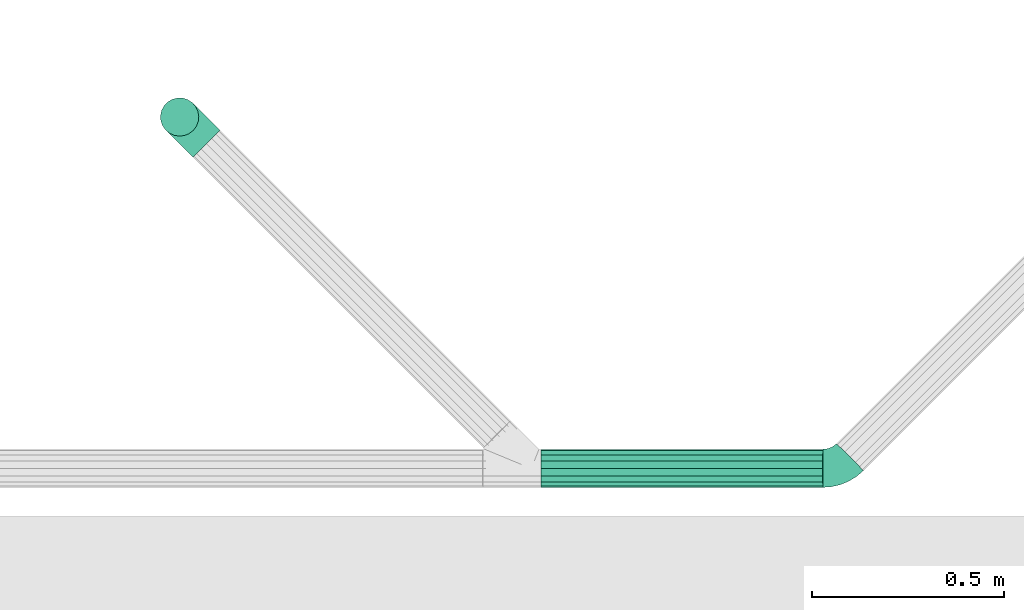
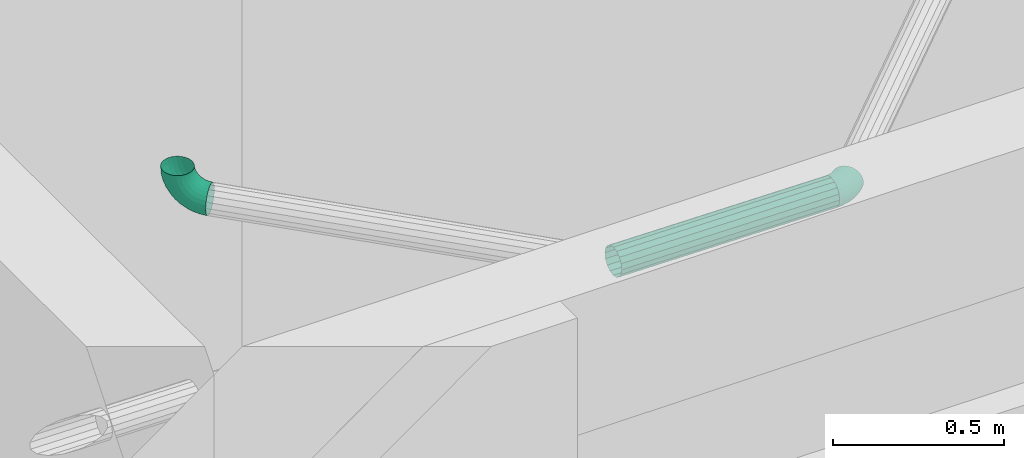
# One storey, part 15 of 23: 2 flow fittings, 1 flow segment.
"""IFC2X3 building model written with IfcOpenShell, lengths in metres."""

from ifc_helpers import new_model, entity, si_unit, converted_unit, derived_unit, money_unit, direction, frame, origin_with_axes, place, context, subcontext, project, spatial, open_shell, faceted_brep, surface_model, material, type_object, element, save


model = new_model("IFC2X3")

# Units and contexts
model_context = context("Model", 3, precision=1e-05, world=origin_with_axes(), true_north=direction((0.0, 1.0)))
body_context = subcontext(model_context, "Body", "Model", "MODEL_VIEW", scale=1.0)
ifc_project = project(units=[si_unit("LENGTHUNIT", "METRE"), si_unit("AREAUNIT", "SQUARE_METRE"), si_unit("VOLUMEUNIT", "CUBIC_METRE"), si_unit("ABSORBEDDOSEUNIT", "GRAY"), si_unit("AMOUNTOFSUBSTANCEUNIT", "MOLE"), si_unit("DOSEEQUIVALENTUNIT", "SIEVERT"), si_unit("ELECTRICCAPACITANCEUNIT", "FARAD"), si_unit("ELECTRICCHARGEUNIT", "COULOMB"), si_unit("ELECTRICCONDUCTANCEUNIT", "SIEMENS"), si_unit("ELECTRICCURRENTUNIT", "AMPERE"), si_unit("ELECTRICRESISTANCEUNIT", "OHM"), si_unit("ELECTRICVOLTAGEUNIT", "VOLT"), si_unit("ENERGYUNIT", "JOULE"), si_unit("FORCEUNIT", "NEWTON"), si_unit("FREQUENCYUNIT", "HERTZ"), si_unit("ILLUMINANCEUNIT", "LUX"), si_unit("INDUCTANCEUNIT", "HENRY"), si_unit("LUMINOUSFLUXUNIT", "LUMEN"), si_unit("LUMINOUSINTENSITYUNIT", "CANDELA"), si_unit("MAGNETICFLUXDENSITYUNIT", "TESLA"), si_unit("MAGNETICFLUXUNIT", "WEBER"), si_unit("MASSUNIT", "GRAM"), converted_unit("PLANEANGLEUNIT", "degree", entity("IfcReal", 0.0174532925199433), si_unit("PLANEANGLEUNIT", "RADIAN"), dimensions=[0, 0, 0, 0, 0, 0, 0]), si_unit("POWERUNIT", "WATT"), si_unit("PRESSUREUNIT", "PASCAL"), si_unit("RADIOACTIVITYUNIT", "BECQUEREL"), si_unit("SOLIDANGLEUNIT", "STERADIAN"), si_unit("THERMODYNAMICTEMPERATUREUNIT", "KELVIN"), si_unit("TIMEUNIT", "SECOND"), derived_unit("ACCELERATIONUNIT", [(si_unit("LENGTHUNIT", "METRE"), 1), (si_unit("TIMEUNIT", "SECOND"), -2)]), derived_unit("ANGULARVELOCITYUNIT", [(converted_unit("PLANEANGLEUNIT", "degree", entity("IfcReal", 0.0174532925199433), si_unit("PLANEANGLEUNIT", "RADIAN"), dimensions=[0, 0, 0, 0, 0, 0, 0]), 1), (si_unit("TIMEUNIT", "SECOND"), -1)]), derived_unit("CURVATUREUNIT", [(converted_unit("PLANEANGLEUNIT", "degree", entity("IfcReal", 0.0174532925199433), si_unit("PLANEANGLEUNIT", "RADIAN"), dimensions=[0, 0, 0, 0, 0, 0, 0]), 1), (si_unit("LENGTHUNIT", "METRE"), -1)]), derived_unit("DYNAMICVISCOSITYUNIT", [(si_unit("PRESSUREUNIT", "PASCAL"), 1), (si_unit("TIMEUNIT", "SECOND"), 1)]), derived_unit("HEATFLUXDENSITYUNIT", [(si_unit("POWERUNIT", "WATT"), 1), (si_unit("LENGTHUNIT", "METRE"), -2)]), derived_unit("HEATINGVALUEUNIT", [(si_unit("ENERGYUNIT", "JOULE"), 1), (si_unit("MASSUNIT", "GRAM"), -1)]), derived_unit("INTEGERCOUNTRATEUNIT", [(si_unit("TIMEUNIT", "SECOND"), -1)]), derived_unit("IONCONCENTRATIONUNIT", [(si_unit("MASSUNIT", "GRAM"), 1), (si_unit("VOLUMEUNIT", "CUBIC_METRE"), -1)]), derived_unit("ISOTHERMALMOISTURECAPACITYUNIT", [(si_unit("VOLUMEUNIT", "CUBIC_METRE"), 1), (si_unit("MASSUNIT", "GRAM"), -1)]), derived_unit("KINEMATICVISCOSITYUNIT", [(si_unit("AREAUNIT", "SQUARE_METRE"), 1), (si_unit("TIMEUNIT", "SECOND"), -1)]), derived_unit("LINEARFORCEUNIT", [(si_unit("FORCEUNIT", "NEWTON"), 1), (si_unit("LENGTHUNIT", "METRE"), -1)]), derived_unit("LINEARMOMENTUNIT", [(si_unit("FORCEUNIT", "NEWTON"), 1), (si_unit("LENGTHUNIT", "METRE"), -1)]), derived_unit("LINEARSTIFFNESSUNIT", [(si_unit("FORCEUNIT", "NEWTON"), 1), (si_unit("LENGTHUNIT", "METRE"), -1)]), derived_unit("LINEARVELOCITYUNIT", [(si_unit("LENGTHUNIT", "METRE"), 1), (si_unit("TIMEUNIT", "SECOND"), -1)]), derived_unit("LUMINOUSINTENSITYDISTRIBUTIONUNIT", [(si_unit("LUMINOUSINTENSITYUNIT", "CANDELA"), 1), (si_unit("LUMINOUSFLUXUNIT", "LUMEN"), -1)]), derived_unit("MASSDENSITYUNIT", [(si_unit("MASSUNIT", "GRAM"), 1), (si_unit("VOLUMEUNIT", "CUBIC_METRE"), -1)]), derived_unit("MASSFLOWRATEUNIT", [(si_unit("MASSUNIT", "GRAM"), 1), (si_unit("TIMEUNIT", "SECOND"), -1)]), derived_unit("MASSPERLENGTHUNIT", [(si_unit("MASSUNIT", "GRAM"), 1), (si_unit("LENGTHUNIT", "METRE"), -1)]), derived_unit("MODULUSOFELASTICITYUNIT", [(si_unit("FORCEUNIT", "NEWTON"), 1), (si_unit("AREAUNIT", "SQUARE_METRE"), -1)]), derived_unit("MODULUSOFLINEARSUBGRADEREACTIONUNIT", [(si_unit("FORCEUNIT", "NEWTON"), 1), (si_unit("LENGTHUNIT", "METRE"), -2)]), derived_unit("MODULUSOFROTATIONALSUBGRADEREACTIONUNIT", [(si_unit("FORCEUNIT", "NEWTON"), 1), (si_unit("LENGTHUNIT", "METRE"), 1)]), derived_unit("MODULUSOFSUBGRADEREACTIONUNIT", [(si_unit("FORCEUNIT", "NEWTON"), 1), (si_unit("VOLUMEUNIT", "CUBIC_METRE"), -1)]), derived_unit("MOISTUREDIFFUSIVITYUNIT", [(si_unit("VOLUMEUNIT", "CUBIC_METRE"), 1), (si_unit("TIMEUNIT", "SECOND"), -1)]), derived_unit("MOLECULARWEIGHTUNIT", [(si_unit("MASSUNIT", "GRAM"), 1), (si_unit("AMOUNTOFSUBSTANCEUNIT", "MOLE"), -1)]), derived_unit("PLANARFORCEUNIT", [(si_unit("FORCEUNIT", "NEWTON"), 1), (si_unit("LENGTHUNIT", "METRE"), -2)]), derived_unit("ROTATIONALFREQUENCYUNIT", [(si_unit("TIMEUNIT", "SECOND"), -1)]), derived_unit("ROTATIONALMASSUNIT", [(si_unit("MASSUNIT", "GRAM"), 1), (si_unit("LENGTHUNIT", "METRE"), 2)]), derived_unit("ROTATIONALSTIFFNESSUNIT", [(si_unit("FORCEUNIT", "NEWTON"), 1), (si_unit("LENGTHUNIT", "METRE"), 1), (converted_unit("PLANEANGLEUNIT", "degree", entity("IfcReal", 0.0174532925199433), si_unit("PLANEANGLEUNIT", "RADIAN"), dimensions=[0, 0, 0, 0, 0, 0, 0]), -1)]), derived_unit("SECTIONAREAINTEGRALUNIT", [(si_unit("LENGTHUNIT", "METRE"), 5)]), derived_unit("SECTIONMODULUSUNIT", [(si_unit("LENGTHUNIT", "METRE"), 3)]), derived_unit("SHEARMODULUSUNIT", [(si_unit("FORCEUNIT", "NEWTON"), 1), (si_unit("AREAUNIT", "SQUARE_METRE"), -1)]), derived_unit("SOUNDPOWERUNIT", [(si_unit("ENERGYUNIT", "JOULE"), 1), (si_unit("TIMEUNIT", "SECOND"), -1)]), derived_unit("SPECIFICHEATCAPACITYUNIT", [(si_unit("FORCEUNIT", "NEWTON"), 1), (si_unit("MASSUNIT", "GRAM"), -1), (si_unit("THERMODYNAMICTEMPERATUREUNIT", "KELVIN"), -1)]), derived_unit("TEMPERATUREGRADIENTUNIT", [(si_unit("THERMODYNAMICTEMPERATUREUNIT", "KELVIN"), 1), (si_unit("LENGTHUNIT", "METRE"), -1)]), derived_unit("THERMALADMITTANCEUNIT", [(si_unit("POWERUNIT", "WATT"), 1), (si_unit("AREAUNIT", "SQUARE_METRE"), -1), (si_unit("THERMODYNAMICTEMPERATUREUNIT", "KELVIN"), -1)]), derived_unit("THERMALCONDUCTANCEUNIT", [(si_unit("POWERUNIT", "WATT"), 1), (si_unit("LENGTHUNIT", "METRE"), -1), (si_unit("THERMODYNAMICTEMPERATUREUNIT", "KELVIN"), -1)]), derived_unit("THERMALEXPANSIONCOEFFICIENTUNIT", [(si_unit("THERMODYNAMICTEMPERATUREUNIT", "KELVIN"), -1)]), derived_unit("THERMALRESISTANCEUNIT", [(si_unit("AREAUNIT", "SQUARE_METRE"), 1), (si_unit("POWERUNIT", "WATT"), -1)]), derived_unit("THERMALTRANSMITTANCEUNIT", [(si_unit("POWERUNIT", "WATT"), 1), (si_unit("AREAUNIT", "SQUARE_METRE"), -1), (si_unit("THERMODYNAMICTEMPERATUREUNIT", "KELVIN"), -1)]), derived_unit("TORQUEUNIT", [(si_unit("FORCEUNIT", "NEWTON"), 1), (si_unit("LENGTHUNIT", "METRE"), 1)]), derived_unit("VAPORPERMEABILITYUNIT", [(si_unit("MASSUNIT", "GRAM"), 1), (si_unit("TIMEUNIT", "SECOND"), -1)]), derived_unit("VOLUMETRICFLOWRATEUNIT", [(si_unit("VOLUMEUNIT", "CUBIC_METRE"), 1), (si_unit("TIMEUNIT", "SECOND"), -1)]), derived_unit("WARPINGCONSTANTUNIT", [(si_unit("LENGTHUNIT", "METRE"), 6)]), derived_unit("WARPINGMOMENTUNIT", [(si_unit("FORCEUNIT", "NEWTON"), 1), (si_unit("LENGTHUNIT", "METRE"), 2)]), money_unit("GBP")], contexts=[model_context])

# Site, building, storey, space
site_placement = place(None, origin_with_axes())
site = spatial("IfcSite", under=ifc_project, at=site_placement, Name="Site", CompositionType="ELEMENT")
building_placement = place(site_placement, origin_with_axes())
building = spatial("IfcBuilding", under=site, at=building_placement, Name="Building01", CompositionType="ELEMENT")
storey_placement = place(building_placement, frame((0.0, 0.0, 2.6), z_axis=(0.0, 0.0, 1.0), x_axis=(1.0, 0.0, 0.0)))
storey = spatial("IfcBuildingStorey", under=building, at=storey_placement, Name="MF", CompositionType="ELEMENT", Elevation=2.6)
space_placement = place(storey_placement, frame((14.421434, 6.076984, 0.0), z_axis=(0.0, 0.0, 1.0), x_axis=(0.0, -1.0, 0.0)))
space = spatial("IfcSpace", under=storey, at=space_placement, Name="storage", CompositionType="ELEMENT", InteriorOrExteriorSpace="NOTDEFINED")

# Flow segment
ifc_material = material(Name="M_BSUK_ColdWater")
pipe_segment_type = type_object("IfcPipeSegmentType", Name="M-BmpStraightpipe-DefaultPipe", PredefinedType="RIGIDSEGMENT")
placement = place(building_placement, origin_with_axes())
flow_segment_placement = place(placement, frame((15.842963, 3.948962, 4.664524), z_axis=(0.01249902, 0.0, 0.99992188), x_axis=(0.99992188, 0.0, -0.01249902)))
element("IfcFlowSegment", 1, at=flow_segment_placement, inside=space, type_object=pipe_segment_type, material=ifc_material, Name="M-BmpStraightpipe-DefaultPipe", ObjectType="M-BmpStraightpipe-DefaultPipe", context=body_context, shape_type="Brep", body=[
    faceted_brep([(0.736484, 0.0, -0.05), (0.0, 0.0, -0.05), (0.0, 0.019134, -0.046194), (0.736484, 0.019134, -0.046194), (0.0, 0.035355, -0.035355), (0.736484, 0.035355, -0.035355), (0.0, 0.046194, -0.019134), (0.736484, 0.046194, -0.019134), (0.0, 0.05, 0.0), (0.736484, 0.05, 0.0), (0.0, 0.046194, 0.019134), (0.736484, 0.046194, 0.019134), (0.0, 0.035355, 0.035355), (0.736484, 0.035355, 0.035355), (0.0, 0.019134, 0.046194), (0.736484, 0.019134, 0.046194), (0.0, 0.0, 0.05), (0.736484, 0.0, 0.05), (0.0, -0.019134, 0.046194), (0.736484, -0.019134, 0.046194), (0.0, -0.035355, 0.035355), (0.736484, -0.035355, 0.035355), (0.0, -0.046194, 0.019134), (0.736484, -0.046194, 0.019134), (0.0, -0.05, 0.0), (0.736484, -0.05, 0.0), (0.0, -0.046194, -0.019134), (0.736484, -0.046194, -0.019134), (0.0, -0.035355, -0.035355), (0.736484, -0.035355, -0.035355), (0.0, -0.019134, -0.046194), (0.736484, -0.019134, -0.046194)], [[[0, 1, 2, 3]], [[3, 2, 4, 5]], [[5, 4, 6, 7]], [[7, 6, 8, 9]], [[9, 8, 10, 11]], [[11, 10, 12, 13]], [[13, 12, 14, 15]], [[15, 14, 16, 17]], [[17, 16, 18, 19]], [[19, 18, 20, 21]], [[21, 20, 22, 23]], [[23, 22, 24, 25]], [[25, 24, 26, 27]], [[27, 26, 28, 29]], [[29, 28, 30, 31]], [[31, 30, 1, 0]]]),
])

# Flow fittings
pipe_fitting_type = type_object("IfcPipeFittingType", Name="M-BmpElbow-DefaultElbow", PredefinedType="BEND")
flow_fitting_1_placement = place(placement, frame((16.579389, 3.948962, 4.655319), z_axis=(6.471e-05, -0.9999866, 0.00517679), x_axis=(0.99992188, 0.0, -0.01249902)))
element("IfcFlowFitting", 2, at=flow_fitting_1_placement, inside=space, type_object=pipe_fitting_type, material=ifc_material, Name="M-BmpElbow-DefaultElbow", ObjectType="M-BmpElbow-DefaultElbow", context=body_context, shape_type="SurfaceModel", body=[
    surface_model("IfcShellBasedSurfaceModel", [(0.008111, -0.01349, -0.048784), (0.0, -0.01349, -0.048146), (0.0, 0.0, -0.05), (0.007821, 0.0, -0.050615), (0.016023, -0.01349, -0.050683), (0.01545, 0.0, -0.052447), (0.023539, -0.01349, -0.053797), (0.022698, 0.0, -0.055449), (0.030477, -0.01349, -0.058048), (0.029387, 0.0, -0.059548), (0.036664, -0.01349, -0.063331), (0.035353, 0.0, -0.064642), (0.00896, -0.025979, -0.043426), (0.0, -0.025979, -0.042721), (0.017699, -0.025979, -0.045524), (0.026002, -0.025979, -0.048963), (0.033665, -0.025979, -0.053659), (0.0405, -0.025979, -0.059495), (0.010304, -0.036542, -0.034939), (0.0, -0.036542, -0.034128), (0.020354, -0.036542, -0.037351), (0.029903, -0.036542, -0.041306), (0.038716, -0.036542, -0.046706), (0.046576, -0.036542, -0.053418), (0.012044, -0.044394, -0.023951), (0.0, -0.044394, -0.023003), (0.023791, -0.044394, -0.026771), (0.034953, -0.044394, -0.031394), (0.045254, -0.044394, -0.037706), (0.054441, -0.044394, -0.045552), (0.014051, -0.048954, -0.011279), (0.0, -0.048954, -0.010173), (0.027756, -0.048954, -0.014569), (0.040778, -0.048954, -0.019962), (0.052795, -0.048954, -0.027326), (0.063513, -0.048954, -0.036478), (0.016176, -0.049883, 0.002139), (0.0, -0.049883, 0.003412), (0.031954, -0.049883, -0.001648), (0.046945, -0.049883, -0.007857), (0.06078, -0.049883, -0.016335), (0.073119, -0.049883, -0.026872), (0.018261, -0.047113, 0.015307), (0.0, -0.047113, 0.016744), (0.036073, -0.047113, 0.011031), (0.052997, -0.047113, 0.004022), (0.068616, -0.047113, -0.005549), (0.082545, -0.047113, -0.017444), (0.020152, -0.040848, 0.027248), (0.0, -0.040848, 0.028834), (0.039809, -0.040848, 0.022529), (0.058485, -0.040848, 0.014794), (0.075721, -0.040848, 0.004233), (0.091094, -0.040848, -0.008895), (0.021709, -0.031554, 0.037077), (0.0, -0.031554, 0.038786), (0.042884, -0.031554, 0.031994), (0.063003, -0.031554, 0.023661), (0.08157, -0.031554, 0.012284), (0.09813, -0.031554, -0.001857), (0.022816, -0.01992, 0.044065), (0.0, -0.01992, 0.045861), (0.04507, -0.01992, 0.038723), (0.066214, -0.01992, 0.029965), (0.085729, -0.01992, 0.018008), (0.103132, -0.01992, 0.003146), (0.02339, -0.006808, 0.047694), (0.0, -0.006808, 0.049534), (0.046205, -0.006808, 0.042217), (0.067882, -0.006808, 0.033239), (0.087888, -0.006808, 0.02098), (0.10573, -0.006808, 0.005744), (0.02339, 0.006808, 0.047694), (0.0, 0.006808, 0.049534), (0.046205, 0.006808, 0.042217), (0.067882, 0.006808, 0.033239), (0.087888, 0.006808, 0.02098), (0.10573, 0.006808, 0.005744), (0.022816, 0.01992, 0.044065), (0.0, 0.01992, 0.045861), (0.04507, 0.01992, 0.038723), (0.066214, 0.01992, 0.029965), (0.085729, 0.01992, 0.018008), (0.103132, 0.01992, 0.003146), (0.021709, 0.031554, 0.037077), (0.0, 0.031554, 0.038786), (0.042884, 0.031554, 0.031994), (0.063003, 0.031554, 0.023661), (0.08157, 0.031554, 0.012284), (0.09813, 0.031554, -0.001857), (0.020152, 0.040848, 0.027248), (0.0, 0.040848, 0.028834), (0.039809, 0.040848, 0.022529), (0.058485, 0.040848, 0.014794), (0.075721, 0.040848, 0.004233), (0.091094, 0.040848, -0.008895), (0.018261, 0.047113, 0.015307), (0.0, 0.047113, 0.016744), (0.036073, 0.047113, 0.011031), (0.052997, 0.047113, 0.004022), (0.068616, 0.047113, -0.005549), (0.082545, 0.047113, -0.017444), (0.016176, 0.049883, 0.002139), (0.0, 0.049883, 0.003412), (0.031954, 0.049883, -0.001648), (0.046945, 0.049883, -0.007857), (0.06078, 0.049883, -0.016335), (0.073119, 0.049883, -0.026872), (0.014051, 0.048954, -0.011279), (0.0, 0.048954, -0.010173), (0.027756, 0.048954, -0.014569), (0.040778, 0.048954, -0.019962), (0.052795, 0.048954, -0.027326), (0.063513, 0.048954, -0.036478), (0.012044, 0.044394, -0.023951), (0.0, 0.044394, -0.023003), (0.023791, 0.044394, -0.026771), (0.034953, 0.044394, -0.031394), (0.045254, 0.044394, -0.037706), (0.054441, 0.044394, -0.045552), (0.010304, 0.036542, -0.034939), (0.0, 0.036542, -0.034128), (0.020354, 0.036542, -0.037351), (0.029903, 0.036542, -0.041306), (0.038716, 0.036542, -0.046706), (0.046576, 0.036542, -0.053418), (0.00896, 0.025979, -0.043426), (0.0, 0.025979, -0.042721), (0.017699, 0.025979, -0.045524), (0.026002, 0.025979, -0.048963), (0.033665, 0.025979, -0.053659), (0.0405, 0.025979, -0.059495), (0.008111, 0.01349, -0.048784), (0.0, 0.01349, -0.048146), (0.016023, 0.01349, -0.050683), (0.023539, 0.01349, -0.053797), (0.030477, 0.01349, -0.058048), (0.036664, 0.01349, -0.063331)], [open_shell([[[0, 1, 2, 3]], [[4, 0, 3, 5]], [[6, 4, 5, 7]], [[8, 6, 7, 9]], [[10, 8, 9, 11]], [[12, 13, 1, 0]], [[14, 12, 0, 4]], [[15, 14, 4, 6]], [[16, 15, 6, 8]], [[17, 16, 8, 10]], [[18, 19, 13, 12]], [[20, 18, 12, 14]], [[21, 20, 14, 15]], [[22, 21, 15, 16]], [[23, 22, 16, 17]], [[24, 25, 19, 18]], [[26, 24, 18, 20]], [[27, 26, 20, 21]], [[28, 27, 21, 22]], [[29, 28, 22, 23]], [[30, 31, 25, 24]], [[32, 30, 24, 26]], [[33, 32, 26, 27]], [[34, 33, 27, 28]], [[35, 34, 28, 29]], [[36, 37, 31, 30]], [[38, 36, 30, 32]], [[39, 38, 32, 33]], [[40, 39, 33, 34]], [[41, 40, 34, 35]], [[42, 43, 37, 36]], [[44, 42, 36, 38]], [[45, 44, 38, 39]], [[46, 45, 39, 40]], [[47, 46, 40, 41]], [[48, 49, 43, 42]], [[50, 48, 42, 44]], [[51, 50, 44, 45]], [[52, 51, 45, 46]], [[53, 52, 46, 47]], [[54, 55, 49, 48]], [[56, 54, 48, 50]], [[57, 56, 50, 51]], [[58, 57, 51, 52]], [[59, 58, 52, 53]], [[60, 61, 55, 54]], [[62, 60, 54, 56]], [[63, 62, 56, 57]], [[64, 63, 57, 58]], [[65, 64, 58, 59]], [[66, 67, 61, 60]], [[68, 66, 60, 62]], [[69, 68, 62, 63]], [[70, 69, 63, 64]], [[71, 70, 64, 65]], [[72, 73, 67, 66]], [[74, 72, 66, 68]], [[75, 74, 68, 69]], [[76, 75, 69, 70]], [[77, 76, 70, 71]], [[78, 79, 73, 72]], [[80, 78, 72, 74]], [[81, 80, 74, 75]], [[82, 81, 75, 76]], [[83, 82, 76, 77]], [[84, 85, 79, 78]], [[86, 84, 78, 80]], [[87, 86, 80, 81]], [[88, 87, 81, 82]], [[89, 88, 82, 83]], [[90, 91, 85, 84]], [[92, 90, 84, 86]], [[93, 92, 86, 87]], [[94, 93, 87, 88]], [[95, 94, 88, 89]], [[96, 97, 91, 90]], [[98, 96, 90, 92]], [[99, 98, 92, 93]], [[100, 99, 93, 94]], [[101, 100, 94, 95]], [[102, 103, 97, 96]], [[104, 102, 96, 98]], [[105, 104, 98, 99]], [[106, 105, 99, 100]], [[107, 106, 100, 101]], [[108, 109, 103, 102]], [[110, 108, 102, 104]], [[111, 110, 104, 105]], [[112, 111, 105, 106]], [[113, 112, 106, 107]], [[114, 115, 109, 108]], [[116, 114, 108, 110]], [[117, 116, 110, 111]], [[118, 117, 111, 112]], [[119, 118, 112, 113]], [[120, 121, 115, 114]], [[122, 120, 114, 116]], [[123, 122, 116, 117]], [[124, 123, 117, 118]], [[125, 124, 118, 119]], [[126, 127, 121, 120]], [[128, 126, 120, 122]], [[129, 128, 122, 123]], [[130, 129, 123, 124]], [[131, 130, 124, 125]], [[132, 133, 127, 126]], [[134, 132, 126, 128]], [[135, 134, 128, 129]], [[136, 135, 129, 130]], [[137, 136, 130, 131]], [[3, 2, 133, 132]], [[5, 3, 132, 134]], [[7, 5, 134, 135]], [[9, 7, 135, 136]], [[11, 9, 136, 137]]])]),
])
flow_fitting_2_placement = place(placement, frame((14.9, 4.866475, 4.778874), z_axis=(-0.70710678, 0.70710678, 0.0), x_axis=(0.0, 0.0, -1.0)))
element("IfcFlowFitting", 3, at=flow_fitting_2_placement, inside=space, type_object=pipe_fitting_type, material=ifc_material, Name="M-BmpElbow-DefaultElbow", ObjectType="M-BmpElbow-DefaultElbow", context=body_context, shape_type="SurfaceModel", body=[
    surface_model("IfcShellBasedSurfaceModel", [(0.008048, -0.01349, -0.048774), (0.0, -0.01349, -0.048146), (0.0, 0.0, -0.05), (0.00776, 0.0, -0.050606), (0.0159, -0.01349, -0.050644), (0.015332, 0.0, -0.052409), (0.023368, -0.01349, -0.05371), (0.022532, 0.0, -0.055365), (0.030269, -0.01349, -0.057897), (0.029187, 0.0, -0.059403), (0.036437, -0.01349, -0.063105), (0.035134, 0.0, -0.064424), (0.041721, -0.01349, -0.069207), (0.040229, 0.0, -0.070308), (0.045995, -0.01349, -0.076055), (0.04435, 0.0, -0.076912), (0.049154, -0.01349, -0.083484), (0.047396, 0.0, -0.084074), (0.051121, -0.01349, -0.091313), (0.049293, 0.0, -0.091623), (0.05185, -0.01349, -0.099352), (0.049996, 0.0, -0.099375), (0.00889, -0.025979, -0.043415), (0.0, -0.025979, -0.042721), (0.017564, -0.025979, -0.04548), (0.025813, -0.025979, -0.048867), (0.033436, -0.025979, -0.053493), (0.040248, -0.025979, -0.059245), (0.046086, -0.025979, -0.065986), (0.050807, -0.025979, -0.07355), (0.054296, -0.025979, -0.081756), (0.056469, -0.025979, -0.090404), (0.057275, -0.025979, -0.099284), (0.010223, -0.036542, -0.034926), (0.0, -0.036542, -0.034128), (0.020199, -0.036542, -0.037301), (0.029685, -0.036542, -0.041196), (0.038452, -0.036542, -0.046515), (0.046287, -0.036542, -0.053131), (0.053, -0.036542, -0.060883), (0.058429, -0.036542, -0.069582), (0.062442, -0.036542, -0.079019), (0.064941, -0.036542, -0.088964), (0.065867, -0.036542, -0.099177), (0.01195, -0.044394, -0.023936), (0.0, -0.044394, -0.023003), (0.02361, -0.044394, -0.026712), (0.034698, -0.044394, -0.031265), (0.044946, -0.044394, -0.037483), (0.054104, -0.044394, -0.045216), (0.061951, -0.044394, -0.054277), (0.068296, -0.044394, -0.064445), (0.072987, -0.044394, -0.075476), (0.075908, -0.044394, -0.0871), (0.076991, -0.044394, -0.099038), (0.013941, -0.048954, -0.011261), (0.0, -0.048954, -0.010173), (0.027544, -0.048954, -0.0145), (0.04048, -0.048954, -0.019811), (0.052435, -0.048954, -0.027065), (0.063119, -0.048954, -0.036087), (0.072274, -0.048954, -0.046657), (0.079677, -0.048954, -0.058521), (0.085149, -0.048954, -0.071389), (0.088558, -0.048954, -0.084951), (0.08982, -0.048954, -0.098877), (0.01605, -0.049883, 0.002159), (0.0, -0.049883, 0.003412), (0.03171, -0.049883, -0.00157), (0.046602, -0.049883, -0.007684), (0.060365, -0.049883, -0.016035), (0.072665, -0.049883, -0.026421), (0.083204, -0.049883, -0.03859), (0.091727, -0.049883, -0.052247), (0.098026, -0.049883, -0.067062), (0.101951, -0.049883, -0.082675), (0.103404, -0.049883, -0.098707), (0.018119, -0.047113, 0.015329), (0.0, -0.047113, 0.016744), (0.035798, -0.047113, 0.01112), (0.05261, -0.047113, 0.004218), (0.068147, -0.047113, -0.00521), (0.082033, -0.047113, -0.016935), (0.093931, -0.047113, -0.030673), (0.103552, -0.047113, -0.046091), (0.110664, -0.047113, -0.062816), (0.115094, -0.047113, -0.080441), (0.116735, -0.047113, -0.098541), (0.019995, -0.040848, 0.027273), (0.0, -0.040848, 0.028834), (0.039505, -0.040848, 0.022628), (0.058059, -0.040848, 0.01501), (0.075205, -0.040848, 0.004606), (0.090528, -0.040848, -0.008333), (0.103658, -0.040848, -0.023494), (0.114276, -0.040848, -0.040508), (0.122124, -0.040848, -0.058965), (0.127013, -0.040848, -0.078416), (0.128824, -0.040848, -0.09839), (0.021539, -0.031554, 0.037104), (0.0, -0.031554, 0.038786), (0.042557, -0.031554, 0.0321), (0.062543, -0.031554, 0.023894), (0.081014, -0.031554, 0.012686), (0.097521, -0.031554, -0.001252), (0.111665, -0.031554, -0.017584), (0.123103, -0.031554, -0.035913), (0.131557, -0.031554, -0.055795), (0.136824, -0.031554, -0.076749), (0.138775, -0.031554, -0.098265), (0.022638, -0.01992, 0.044093), (0.0, -0.01992, 0.045861), (0.044726, -0.01992, 0.038834), (0.065732, -0.01992, 0.03021), (0.085144, -0.01992, 0.018431), (0.102492, -0.01992, 0.003782), (0.117357, -0.01992, -0.013383), (0.129378, -0.01992, -0.032646), (0.138264, -0.01992, -0.053542), (0.143799, -0.01992, -0.075563), (0.145849, -0.01992, -0.098177), (0.023208, -0.006808, 0.047722), (0.0, -0.006808, 0.049534), (0.045853, -0.006808, 0.042331), (0.067387, -0.006808, 0.03349), (0.087288, -0.006808, 0.021414), (0.105074, -0.006808, 0.006395), (0.120313, -0.006808, -0.011201), (0.132637, -0.006808, -0.03095), (0.141746, -0.006808, -0.052372), (0.147421, -0.006808, -0.074948), (0.149523, -0.006808, -0.098131), (0.023208, 0.006808, 0.047722), (0.0, 0.006808, 0.049534), (0.045853, 0.006808, 0.042331), (0.067387, 0.006808, 0.03349), (0.087288, 0.006808, 0.021414), (0.105074, 0.006808, 0.006395), (0.120313, 0.006808, -0.011201), (0.132637, 0.006808, -0.03095), (0.141746, 0.006808, -0.052372), (0.147421, 0.006808, -0.074948), (0.149523, 0.006808, -0.098131), (0.022638, 0.01992, 0.044093), (0.0, 0.01992, 0.045861), (0.044726, 0.01992, 0.038834), (0.065732, 0.01992, 0.03021), (0.085144, 0.01992, 0.018431), (0.102492, 0.01992, 0.003782), (0.117357, 0.01992, -0.013383), (0.129378, 0.01992, -0.032646), (0.138264, 0.01992, -0.053542), (0.143799, 0.01992, -0.075563), (0.145849, 0.01992, -0.098177), (0.021539, 0.031554, 0.037104), (0.0, 0.031554, 0.038786), (0.042557, 0.031554, 0.0321), (0.062543, 0.031554, 0.023894), (0.081014, 0.031554, 0.012686), (0.097521, 0.031554, -0.001252), (0.111665, 0.031554, -0.017584), (0.123103, 0.031554, -0.035913), (0.131557, 0.031554, -0.055795), (0.136824, 0.031554, -0.076749), (0.138775, 0.031554, -0.098265), (0.019995, 0.040848, 0.027273), (0.0, 0.040848, 0.028834), (0.039505, 0.040848, 0.022628), (0.058059, 0.040848, 0.01501), (0.075205, 0.040848, 0.004606), (0.090528, 0.040848, -0.008333), (0.103658, 0.040848, -0.023494), (0.114276, 0.040848, -0.040508), (0.122124, 0.040848, -0.058965), (0.127013, 0.040848, -0.078416), (0.128824, 0.040848, -0.09839), (0.018119, 0.047113, 0.015329), (0.0, 0.047113, 0.016744), (0.035798, 0.047113, 0.01112), (0.05261, 0.047113, 0.004218), (0.068147, 0.047113, -0.00521), (0.082033, 0.047113, -0.016935), (0.093931, 0.047113, -0.030673), (0.103552, 0.047113, -0.046091), (0.110664, 0.047113, -0.062816), (0.115094, 0.047113, -0.080441), (0.116735, 0.047113, -0.098541), (0.01605, 0.049883, 0.002159), (0.0, 0.049883, 0.003412), (0.03171, 0.049883, -0.00157), (0.046602, 0.049883, -0.007684), (0.060365, 0.049883, -0.016035), (0.072665, 0.049883, -0.026421), (0.083204, 0.049883, -0.03859), (0.091727, 0.049883, -0.052247), (0.098026, 0.049883, -0.067062), (0.101951, 0.049883, -0.082675), (0.103404, 0.049883, -0.098707), (0.013941, 0.048954, -0.011261), (0.0, 0.048954, -0.010173), (0.027544, 0.048954, -0.0145), (0.04048, 0.048954, -0.019811), (0.052435, 0.048954, -0.027065), (0.063119, 0.048954, -0.036087), (0.072274, 0.048954, -0.046657), (0.079677, 0.048954, -0.058521), (0.085149, 0.048954, -0.071389), (0.088558, 0.048954, -0.084951), (0.08982, 0.048954, -0.098877), (0.01195, 0.044394, -0.023936), (0.0, 0.044394, -0.023003), (0.02361, 0.044394, -0.026712), (0.034698, 0.044394, -0.031265), (0.044946, 0.044394, -0.037483), (0.054104, 0.044394, -0.045216), (0.061951, 0.044394, -0.054277), (0.068296, 0.044394, -0.064445), (0.072987, 0.044394, -0.075476), (0.075908, 0.044394, -0.0871), (0.076991, 0.044394, -0.099038), (0.010223, 0.036542, -0.034926), (0.0, 0.036542, -0.034128), (0.020199, 0.036542, -0.037301), (0.029685, 0.036542, -0.041196), (0.038452, 0.036542, -0.046515), (0.046287, 0.036542, -0.053131), (0.053, 0.036542, -0.060883), (0.058429, 0.036542, -0.069582), (0.062442, 0.036542, -0.079019), (0.064941, 0.036542, -0.088964), (0.065867, 0.036542, -0.099177), (0.00889, 0.025979, -0.043415), (0.0, 0.025979, -0.042721), (0.017564, 0.025979, -0.04548), (0.025813, 0.025979, -0.048867), (0.033436, 0.025979, -0.053493), (0.040248, 0.025979, -0.059245), (0.046086, 0.025979, -0.065986), (0.050807, 0.025979, -0.07355), (0.054296, 0.025979, -0.081756), (0.056469, 0.025979, -0.090404), (0.057275, 0.025979, -0.099284), (0.008048, 0.01349, -0.048774), (0.0, 0.01349, -0.048146), (0.0159, 0.01349, -0.050644), (0.023368, 0.01349, -0.05371), (0.030269, 0.01349, -0.057897), (0.036437, 0.01349, -0.063105), (0.041721, 0.01349, -0.069207), (0.045995, 0.01349, -0.076055), (0.049154, 0.01349, -0.083484), (0.051121, 0.01349, -0.091313), (0.05185, 0.01349, -0.099352)], [open_shell([[[0, 1, 2, 3]], [[4, 0, 3, 5]], [[6, 4, 5, 7]], [[8, 6, 7, 9]], [[10, 8, 9, 11]], [[12, 10, 11, 13]], [[14, 12, 13, 15]], [[16, 14, 15, 17]], [[18, 16, 17, 19]], [[20, 18, 19, 21]], [[22, 23, 1, 0]], [[24, 22, 0, 4]], [[25, 24, 4, 6]], [[26, 25, 6, 8]], [[27, 26, 8, 10]], [[28, 27, 10, 12]], [[29, 28, 12, 14]], [[30, 29, 14, 16]], [[31, 30, 16, 18]], [[32, 31, 18, 20]], [[33, 34, 23, 22]], [[35, 33, 22, 24]], [[36, 35, 24, 25]], [[37, 36, 25, 26]], [[38, 37, 26, 27]], [[39, 38, 27, 28]], [[40, 39, 28, 29]], [[41, 40, 29, 30]], [[42, 41, 30, 31]], [[43, 42, 31, 32]], [[44, 45, 34, 33]], [[46, 44, 33, 35]], [[47, 46, 35, 36]], [[48, 47, 36, 37]], [[49, 48, 37, 38]], [[50, 49, 38, 39]], [[51, 50, 39, 40]], [[52, 51, 40, 41]], [[53, 52, 41, 42]], [[54, 53, 42, 43]], [[55, 56, 45, 44]], [[57, 55, 44, 46]], [[58, 57, 46, 47]], [[59, 58, 47, 48]], [[60, 59, 48, 49]], [[61, 60, 49, 50]], [[62, 61, 50, 51]], [[63, 62, 51, 52]], [[64, 63, 52, 53]], [[65, 64, 53, 54]], [[66, 67, 56, 55]], [[68, 66, 55, 57]], [[69, 68, 57, 58]], [[70, 69, 58, 59]], [[71, 70, 59, 60]], [[72, 71, 60, 61]], [[73, 72, 61, 62]], [[74, 73, 62, 63]], [[75, 74, 63, 64]], [[76, 75, 64, 65]], [[77, 78, 67, 66]], [[79, 77, 66, 68]], [[80, 79, 68, 69]], [[81, 80, 69, 70]], [[82, 81, 70, 71]], [[83, 82, 71, 72]], [[84, 83, 72, 73]], [[85, 84, 73, 74]], [[86, 85, 74, 75]], [[87, 86, 75, 76]], [[88, 89, 78, 77]], [[90, 88, 77, 79]], [[91, 90, 79, 80]], [[92, 91, 80, 81]], [[93, 92, 81, 82]], [[94, 93, 82, 83]], [[95, 94, 83, 84]], [[96, 95, 84, 85]], [[97, 96, 85, 86]], [[98, 97, 86, 87]], [[99, 100, 89, 88]], [[101, 99, 88, 90]], [[102, 101, 90, 91]], [[103, 102, 91, 92]], [[104, 103, 92, 93]], [[105, 104, 93, 94]], [[106, 105, 94, 95]], [[107, 106, 95, 96]], [[108, 107, 96, 97]], [[109, 108, 97, 98]], [[110, 111, 100, 99]], [[112, 110, 99, 101]], [[113, 112, 101, 102]], [[114, 113, 102, 103]], [[115, 114, 103, 104]], [[116, 115, 104, 105]], [[117, 116, 105, 106]], [[118, 117, 106, 107]], [[119, 118, 107, 108]], [[120, 119, 108, 109]], [[121, 122, 111, 110]], [[123, 121, 110, 112]], [[124, 123, 112, 113]], [[125, 124, 113, 114]], [[126, 125, 114, 115]], [[127, 126, 115, 116]], [[128, 127, 116, 117]], [[129, 128, 117, 118]], [[130, 129, 118, 119]], [[131, 130, 119, 120]], [[132, 133, 122, 121]], [[134, 132, 121, 123]], [[135, 134, 123, 124]], [[136, 135, 124, 125]], [[137, 136, 125, 126]], [[138, 137, 126, 127]], [[139, 138, 127, 128]], [[140, 139, 128, 129]], [[141, 140, 129, 130]], [[142, 141, 130, 131]], [[143, 144, 133, 132]], [[145, 143, 132, 134]], [[146, 145, 134, 135]], [[147, 146, 135, 136]], [[148, 147, 136, 137]], [[149, 148, 137, 138]], [[150, 149, 138, 139]], [[151, 150, 139, 140]], [[152, 151, 140, 141]], [[153, 152, 141, 142]], [[154, 155, 144, 143]], [[156, 154, 143, 145]], [[157, 156, 145, 146]], [[158, 157, 146, 147]], [[159, 158, 147, 148]], [[160, 159, 148, 149]], [[161, 160, 149, 150]], [[162, 161, 150, 151]], [[163, 162, 151, 152]], [[164, 163, 152, 153]], [[165, 166, 155, 154]], [[167, 165, 154, 156]], [[168, 167, 156, 157]], [[169, 168, 157, 158]], [[170, 169, 158, 159]], [[171, 170, 159, 160]], [[172, 171, 160, 161]], [[173, 172, 161, 162]], [[174, 173, 162, 163]], [[175, 174, 163, 164]], [[176, 177, 166, 165]], [[178, 176, 165, 167]], [[179, 178, 167, 168]], [[180, 179, 168, 169]], [[181, 180, 169, 170]], [[182, 181, 170, 171]], [[183, 182, 171, 172]], [[184, 183, 172, 173]], [[185, 184, 173, 174]], [[186, 185, 174, 175]], [[187, 188, 177, 176]], [[189, 187, 176, 178]], [[190, 189, 178, 179]], [[191, 190, 179, 180]], [[192, 191, 180, 181]], [[193, 192, 181, 182]], [[194, 193, 182, 183]], [[195, 194, 183, 184]], [[196, 195, 184, 185]], [[197, 196, 185, 186]], [[198, 199, 188, 187]], [[200, 198, 187, 189]], [[201, 200, 189, 190]], [[202, 201, 190, 191]], [[203, 202, 191, 192]], [[204, 203, 192, 193]], [[205, 204, 193, 194]], [[206, 205, 194, 195]], [[207, 206, 195, 196]], [[208, 207, 196, 197]], [[209, 210, 199, 198]], [[211, 209, 198, 200]], [[212, 211, 200, 201]], [[213, 212, 201, 202]], [[214, 213, 202, 203]], [[215, 214, 203, 204]], [[216, 215, 204, 205]], [[217, 216, 205, 206]], [[218, 217, 206, 207]], [[219, 218, 207, 208]], [[220, 221, 210, 209]], [[222, 220, 209, 211]], [[223, 222, 211, 212]], [[224, 223, 212, 213]], [[225, 224, 213, 214]], [[226, 225, 214, 215]], [[227, 226, 215, 216]], [[228, 227, 216, 217]], [[229, 228, 217, 218]], [[230, 229, 218, 219]], [[231, 232, 221, 220]], [[233, 231, 220, 222]], [[234, 233, 222, 223]], [[235, 234, 223, 224]], [[236, 235, 224, 225]], [[237, 236, 225, 226]], [[238, 237, 226, 227]], [[239, 238, 227, 228]], [[240, 239, 228, 229]], [[241, 240, 229, 230]], [[242, 243, 232, 231]], [[244, 242, 231, 233]], [[245, 244, 233, 234]], [[246, 245, 234, 235]], [[247, 246, 235, 236]], [[248, 247, 236, 237]], [[249, 248, 237, 238]], [[250, 249, 238, 239]], [[251, 250, 239, 240]], [[252, 251, 240, 241]], [[3, 2, 243, 242]], [[5, 3, 242, 244]], [[7, 5, 244, 245]], [[9, 7, 245, 246]], [[11, 9, 246, 247]], [[13, 11, 247, 248]], [[15, 13, 248, 249]], [[17, 15, 249, 250]], [[19, 17, 250, 251]], [[21, 19, 251, 252]]])]),
])

save(model, "model.ifc")
